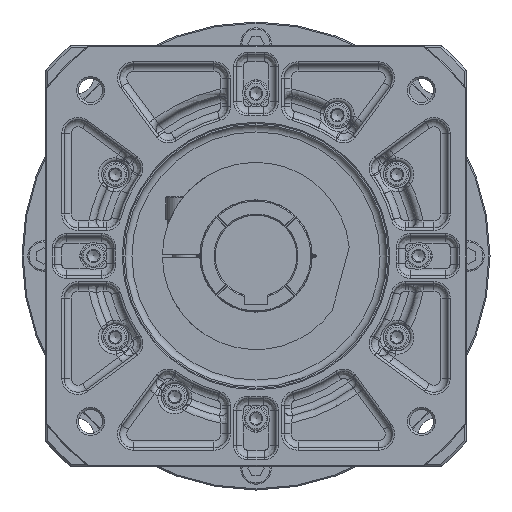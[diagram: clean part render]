
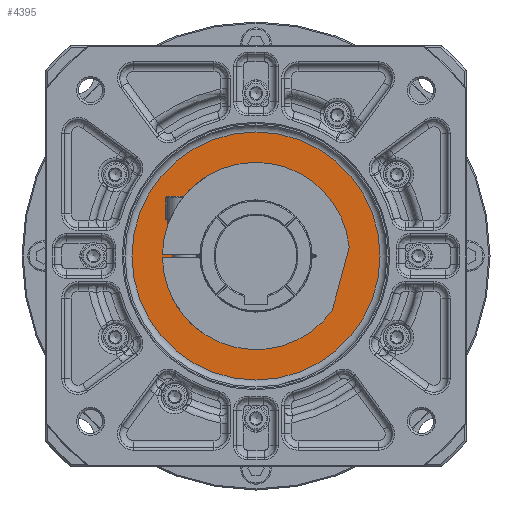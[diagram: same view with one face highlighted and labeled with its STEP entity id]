
A CAD part, left-side view. The second image highlights one B-rep face of the part: STEP entity #4395.
In plain terms, the highlighted planar face has unit normal (-1, 0, 0).
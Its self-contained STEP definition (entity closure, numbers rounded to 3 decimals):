
#3757=FACE_BOUND('',#7087,.T.);
#3758=FACE_BOUND('',#7088,.T.);
#4395=ADVANCED_FACE('',(#3757,#3758),#5562,.F.);
#5562=PLANE('',#18715);
#7087=EDGE_LOOP('',(#8973));
#7088=EDGE_LOOP('',(#8974));
#8973=ORIENTED_EDGE('',*,*,#15083,.T.);
#8974=ORIENTED_EDGE('',*,*,#15084,.T.);
#13465=VERTEX_POINT('',#27326);
#13466=VERTEX_POINT('',#27328);
#15083=EDGE_CURVE('',#13465,#13465,#17297,.T.);
#15084=EDGE_CURVE('',#13466,#13466,#17298,.T.);
#17297=CIRCLE('',#18713,53.);
#17298=CIRCLE('',#18714,30.);
#18713=AXIS2_PLACEMENT_3D('',#27325,#21581,#21582);
#18714=AXIS2_PLACEMENT_3D('',#27327,#21583,#21584);
#18715=AXIS2_PLACEMENT_3D('',#27329,#21585,#21586);
#21581=DIRECTION('',(-1.,0.,0.));
#21582=DIRECTION('',(0.,0.,1.));
#21583=DIRECTION('',(1.,0.,0.));
#21584=DIRECTION('',(0.,0.,-1.));
#21585=DIRECTION('',(1.,0.,0.));
#21586=DIRECTION('',(0.,0.,1.));
#27325=CARTESIAN_POINT('',(-292.,0.,0.));
#27326=CARTESIAN_POINT('',(-292.,0.,53.));
#27327=CARTESIAN_POINT('',(-292.,0.,0.));
#27328=CARTESIAN_POINT('',(-292.,0.,-30.));
#27329=CARTESIAN_POINT('',(-292.,48.077,0.));
